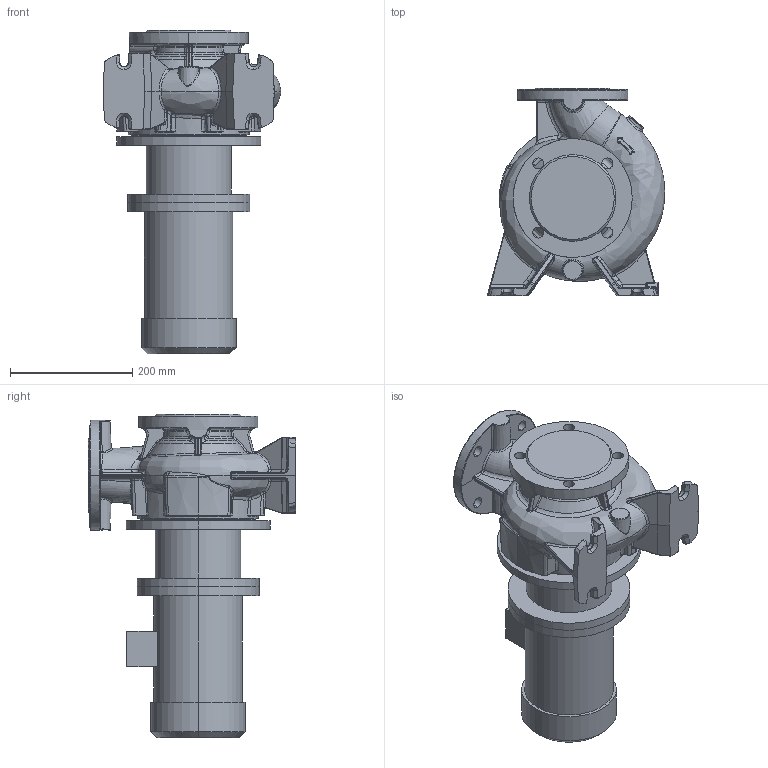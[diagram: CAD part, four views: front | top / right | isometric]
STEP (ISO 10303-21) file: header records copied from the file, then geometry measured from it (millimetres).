
FILE_DESCRIPTION (( 'STEP AP203' ), '1' );
FILE_NAME ('KRM 80-65-125-4-0,75.STEP', '2026-05-07T12:47:25', ( '' ), ( '' ), 'SwSTEP 2.0', 'SolidWorks 2016', '' );
FILE_SCHEMA (( 'CONFIG_CONTROL_DESIGN' ));
Products named in the file (1): KRM 80-65-125-4-0,75
Bounding box: 290.68 x 340 x 529.8 mm (x, y, z)
Volume: 15022230.1 mm3; surface area: 848035.2 mm2
Topology: 4 solids, 4 shells, 985 faces, 2345 edges, 1370 vertices
Faces by surface type: bspline 488, cylinder 217, plane 143, cone 67, torus 63, sphere 7
Entity records: 57822 total; most frequent: CARTESIAN_POINT 38979, ORIENTED_EDGE 4650, DIRECTION 3017, EDGE_CURVE 2325, VERTEX_POINT 1370, AXIS2_PLACEMENT_3D 1287, EDGE_LOOP 1023, ADVANCED_FACE 985
